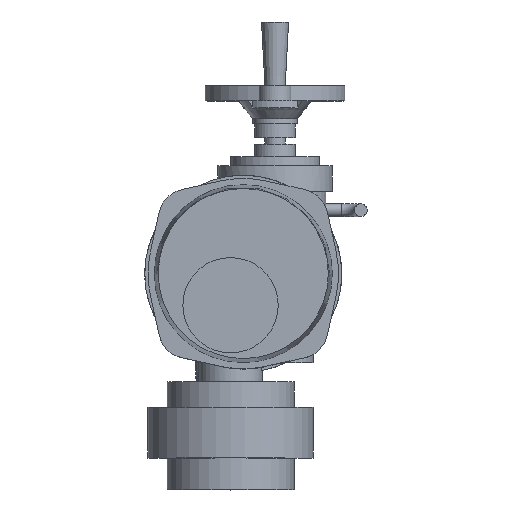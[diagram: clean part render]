
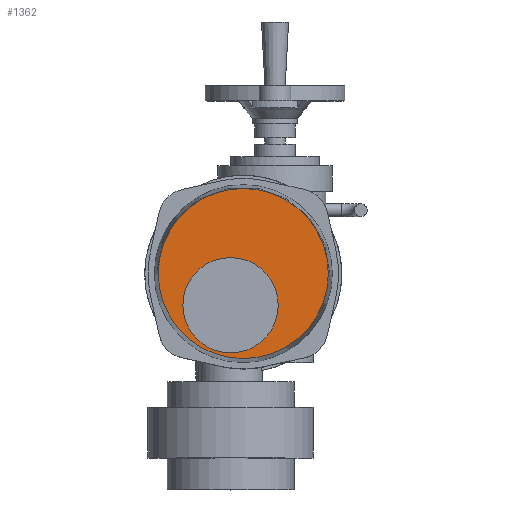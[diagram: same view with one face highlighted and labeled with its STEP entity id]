
A CAD part, top view. The second image highlights one B-rep face of the part: STEP entity #1362.
In plain terms, the highlighted planar face has unit normal (0, 0, 1).
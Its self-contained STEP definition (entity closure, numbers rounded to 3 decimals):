
#1362=ADVANCED_FACE('',(#2967,#2969),#2971,.T.);
#2967=FACE_BOUND('',#2968,.T.);
#2968=EDGE_LOOP('',(#4026));
#2969=FACE_BOUND('',#2970,.T.);
#2970=EDGE_LOOP('',(#4027));
#2971=PLANE('',#2972);
#2972=AXIS2_PLACEMENT_3D('',#2973,#2974,#2975);
#2973=CARTESIAN_POINT('',(15.,30.,385.));
#2974=DIRECTION('',(0.,0.,1.));
#2975=DIRECTION('',(-1.,0.,0.));
#4026=ORIENTED_EDGE('',*,*,#4526,.T.);
#4027=ORIENTED_EDGE('',*,*,#4568,.F.);
#4526=EDGE_CURVE('',#5169,#5169,#5170,.T.);
#4568=EDGE_CURVE('',#5231,#5231,#5232,.T.);
#5169=VERTEX_POINT('',#7887);
#5170=CIRCLE('',#7888,66.908);
#5231=VERTEX_POINT('',#8050);
#5232=CIRCLE('',#8051,37.5);
#7887=CARTESIAN_POINT('',(-51.908,30.,385.));
#7888=AXIS2_PLACEMENT_3D('',#7889,#7890,#7891);
#7889=CARTESIAN_POINT('',(15.,30.,385.));
#7890=DIRECTION('',(0.,0.,1.));
#7891=DIRECTION('',(-1.,0.,0.));
#8050=CARTESIAN_POINT('',(-32.5,5.,385.));
#8051=AXIS2_PLACEMENT_3D('',#8052,#8053,#8054);
#8052=CARTESIAN_POINT('',(5.,5.,385.));
#8053=DIRECTION('',(0.,0.,1.));
#8054=DIRECTION('',(-1.,0.,0.));
